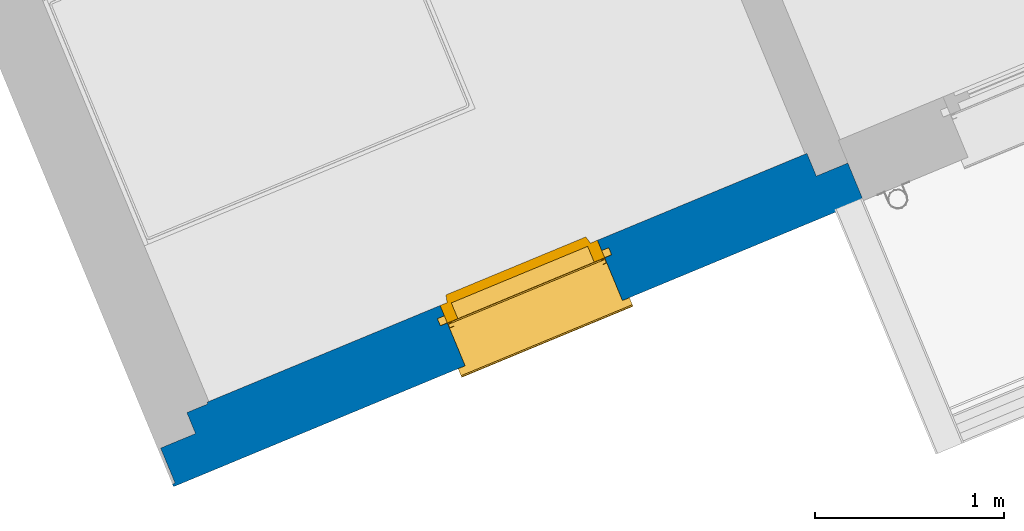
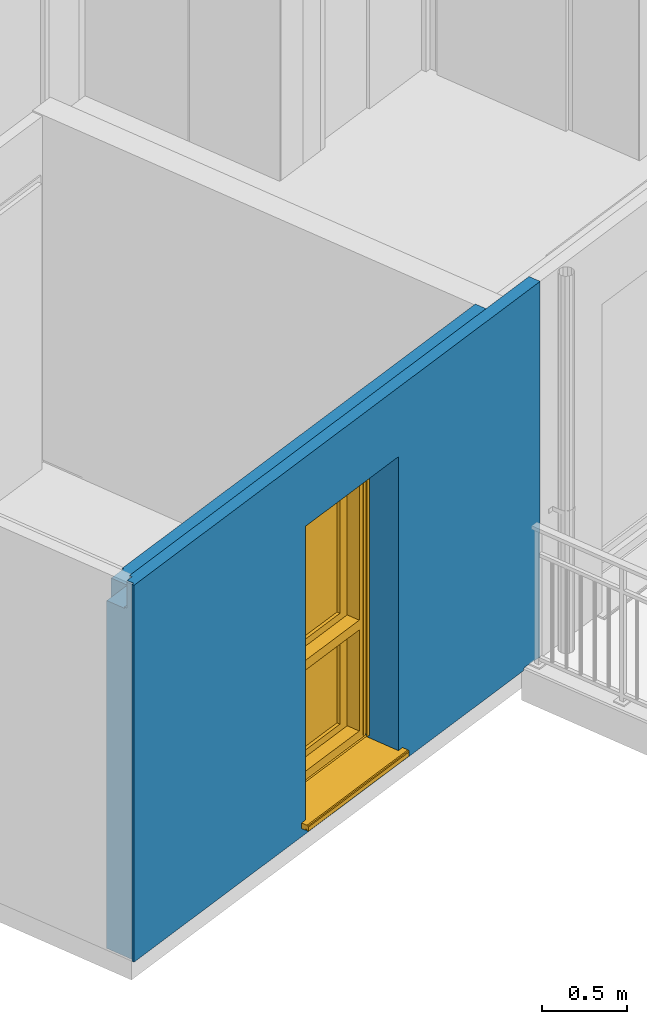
# One storey, part 5 of 90: 1 wall, 1 window, 1 opening.
"""IFC2X3 building model written with IfcOpenShell, lengths in metres."""

from ifc_helpers import new_model, entity, si_unit, converted_unit, derived_unit, money_unit, direction, frame, origin_with_axes, place, context, subcontext, project, spatial, open_shell, faceted_brep, surface_model, source, transform, mapped, material, material_list, type_object, element, fill, save


model = new_model("IFC2X3")

# Units and contexts
model_context = context("Model", 3, precision=1e-05, world=origin_with_axes(), true_north=direction((0.0, 1.0)))
body_context = subcontext(model_context, "Body", "Model", "MODEL_VIEW")
ifc_project = project(units=[si_unit("LENGTHUNIT", "METRE"), si_unit("AREAUNIT", "SQUARE_METRE"), si_unit("VOLUMEUNIT", "CUBIC_METRE"), converted_unit("PLANEANGLEUNIT", "DEGREE", entity("IfcPlaneAngleMeasure", 0.0174532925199), si_unit("PLANEANGLEUNIT", "RADIAN"), dimensions=[0, 0, 0, 0, 0, 0, 0]), si_unit("SOLIDANGLEUNIT", "STERADIAN"), money_unit("EUR"), converted_unit("TIMEUNIT", "Year", entity("IfcTimeMeasure", 31556926.0), si_unit("TIMEUNIT", "SECOND"), dimensions=[0, 0, 1, 0, 0, 0, 0]), si_unit("MASSUNIT", "GRAM", prefix="KILO"), si_unit("THERMODYNAMICTEMPERATUREUNIT", "DEGREE_CELSIUS"), si_unit("LUMINOUSINTENSITYUNIT", "LUMEN"), si_unit("ENERGYUNIT", "JOULE", prefix="MEGA"), derived_unit("THERMALCONDUCTANCEUNIT", [(si_unit("POWERUNIT", "WATT"), 1), (si_unit("LENGTHUNIT", "METRE"), -1), (si_unit("THERMODYNAMICTEMPERATUREUNIT", "KELVIN"), -1)]), derived_unit("SPECIFICHEATCAPACITYUNIT", [(si_unit("ENERGYUNIT", "JOULE"), 1), (si_unit("MASSUNIT", "GRAM", prefix="KILO"), -1), (si_unit("THERMODYNAMICTEMPERATUREUNIT", "KELVIN"), -1)]), derived_unit("MASSDENSITYUNIT", [(si_unit("MASSUNIT", "GRAM", prefix="KILO"), 1), (si_unit("VOLUMEUNIT", "CUBIC_METRE"), -1)])], contexts=[model_context])

# Site, building, storey
site_placement = place(None, origin_with_axes())
site = spatial("IfcSite", under=ifc_project, at=site_placement, Name="Site", CompositionType="ELEMENT")
building_placement = place(site_placement, origin_with_axes())
building = spatial("IfcBuilding", under=site, at=building_placement, Name="Bâtiment", CompositionType="ELEMENT")
storey_placement = place(building_placement, frame((0.0, 0.0, 2.72), z_axis=(0.0, 0.0, 1.0), x_axis=(1.0, 0.0, 0.0)))
storey = spatial("IfcBuildingStorey", under=building, at=storey_placement, Name="R+1", CompositionType="ELEMENT", Elevation=2.72)

# Wall, opening, window
ifc_material_1 = material(Name="Finition int - Plaque de plâtre")
ifc_material_2 = material(Name="Isolation - Polystyrène extrudé")
ifc_material_3 = material(Name="Bloc ELITHERM")
ifc_material_4 = material(Name="Isolation - Polystyrène expansé")
ifc_material_5 = material(Name="Mortier")
ifc_material_6 = material(Name="Béton cellulaire")
ifc_material_7 = material(Name="Finition ext - Crépis")
ifc_material_list = material_list([ifc_material_1, ifc_material_2, ifc_material_3, ifc_material_4, ifc_material_5, ifc_material_6, ifc_material_7])
wall_type = type_object("IfcWallType", Name="Mur ALKERN + planelle 21 345 x 2720", PredefinedType="USERDEFINED")
wall_placement = place(storey_placement, frame((-30.9825111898, -28.5909034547, 0.0), z_axis=(0.0, 0.0, 1.0), x_axis=(0.923701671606, 0.383112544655, 0.0)))
wall = element("IfcWall", 1, at=wall_placement, inside=storey, type_object=wall_type, material=ifc_material_list, Name="Mue bloc ALKERN isolé", ObjectType="SOLIDWALL", context=body_context, shape_type="Brep", body=[
    faceted_brep([(0.335000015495, 0.335000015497, 0.0), (3.7669281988, 0.335000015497, 0.0), (3.7669281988, 0.335000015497, 2.50999999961), (0.335000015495, 0.335000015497, 2.51), (1.66817600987, 0.335000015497, 2.22), (1.66817600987, 0.335000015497, 2.4), (2.56817600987, 0.335000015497, 2.4), (2.56817600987, 0.335000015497, 2.22), (2.56817600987, 0.335000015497, 0.12), (1.66817600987, 0.335000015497, 0.12), (0.335000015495, 0.34499998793, 0.0), (3.76692819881, 0.34499998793, 0.0), (3.76692819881, 0.34499998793, 2.50999999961), (0.335000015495, 0.34499998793, 2.51), (1.66817600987, 0.34499998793, 2.22), (1.66817600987, 0.34499998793, 2.4), (1.66817600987, 0.34499998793, 0.12), (2.56817600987, 0.34499998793, 2.4), (2.56817600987, 0.34499998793, 2.22), (2.56817600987, 0.34499998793, 0.12)], [[[0, 1, 2, 3], [4, 5, 6, 7, 8, 9]], [[10, 11, 1, 0]], [[2, 1, 11, 12]], [[3, 2, 12, 13]], [[3, 13, 10, 0]], [[14, 15, 5, 4, 9, 16]], [[6, 5, 15, 17]], [[7, 6, 17, 18, 19, 8]], [[8, 19, 16, 9]], [[13, 12, 11, 10], [15, 14, 16, 19, 18, 17]]]),
    faceted_brep([(2.56817600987, 0.286, 0.12), (2.56817600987, 0.286, 0.06), (2.56817600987, 0.215000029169, 0.06), (2.56817600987, 0.215000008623, 0.12), (2.56817600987, 0.215, 2.22), (2.56817600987, 0.215, 2.4), (2.56817600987, 0.335000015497, 2.4), (2.56817600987, 0.335000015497, 2.22), (2.56817600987, 0.335000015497, 0.12), (1.66817600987, 0.286, 0.12), (1.66817600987, 0.286, 0.06), (1.66817600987, 0.215000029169, 0.06), (3.76692819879, 0.214999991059, 2.50999999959), (0.214999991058, 0.215000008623, 2.50999999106), (0.214999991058, 0.215000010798, 0.0), (3.76692819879, 0.215000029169, 0.0), (1.66817600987, 0.215000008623, 0.12), (1.66817600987, 0.215, 2.22), (1.66817600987, 0.215, 2.4), (1.66817600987, 0.335000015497, 2.4), (3.7669281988, 0.335000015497, 0.0), (0.214999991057, 0.335000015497, 0.0), (0.214999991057, 0.335000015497, 2.50999999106), (3.7669281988, 0.335000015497, 2.50999999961), (1.66817600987, 0.335000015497, 2.22), (1.66817600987, 0.335000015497, 0.12)], [[[0, 1, 2, 3, 4, 5, 6, 7, 8]], [[0, 9, 10, 1]], [[11, 2, 1, 10]], [[12, 13, 14, 15], [11, 16, 17, 18, 5, 4, 3, 2]], [[18, 19, 6, 5]], [[20, 21, 22, 23], [8, 7, 6, 19, 24, 25]], [[9, 0, 8, 25]], [[16, 11, 10, 9, 25, 24, 19, 18, 17]], [[23, 22, 13, 12]], [[21, 14, 13, 22]], [[15, 14, 21, 20]], [[20, 23, 12, 15]]]),
    faceted_brep([(2.56817600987, 0.214999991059, 0.12), (2.56817600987, 0.214999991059, 0.06), (2.56817600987, 0.015, 0.06), (2.56817600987, 0.015, 0.12), (2.56817600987, 0.015, 2.22), (2.56817600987, 0.214999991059, 2.22), (3.94692819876, 0.214999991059, 2.50999999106), (3.94692819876, 0.214999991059, 0.0), (0.0149999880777, 0.214999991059, 0.0), (0.0149999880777, 0.214999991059, 2.50999999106), (1.66817600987, 0.214999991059, 2.22), (1.66817600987, 0.214999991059, 0.12), (1.66817600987, 0.214999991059, 0.06), (1.66817600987, 0.015, 0.06), (3.94692819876, 0.015, 0.0), (3.94692819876, 0.015, 2.50999999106), (0.014999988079, 0.015, 2.50999999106), (0.014999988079, 0.015, 0.0), (1.66817600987, 0.015, 0.12), (1.66817600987, 0.015, 2.22), (3.94692819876, 0.0829999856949, 2.50999999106), (0.0149999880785, 0.0829999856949, 2.50999999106)], [[[0, 1, 2, 3, 4, 5]], [[6, 7, 8, 9], [1, 0, 5, 10, 11, 12]], [[13, 2, 1, 12]], [[14, 15, 16, 17], [13, 18, 19, 4, 3, 2]], [[19, 10, 5, 4]], [[7, 6, 20, 15, 14]], [[7, 14, 17, 8]], [[8, 17, 16, 21, 9]], [[20, 6, 9, 21]], [[18, 13, 12, 11, 10, 19]], [[15, 20, 21, 16]]]),
    faceted_brep([(3.94692819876, 0.083000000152, 2.72), (0.0629999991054, 0.083000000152, 2.72), (0.0629999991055, 0.0630000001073, 2.72), (3.94692819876, 0.0630000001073, 2.72), (3.94692819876, 0.083000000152, 2.51999999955), (0.0629999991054, 0.083000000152, 2.51999999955), (0.0629999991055, 0.0630000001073, 2.51999999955), (3.94692819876, 0.0630000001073, 2.51999999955)], [[[0, 1, 2, 3]], [[4, 5, 1, 0]], [[5, 6, 2, 1]], [[3, 2, 6, 7]], [[7, 4, 0, 3]], [[7, 6, 5, 4]]]),
    faceted_brep([(0.0149999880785, 0.083, 2.51999999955), (0.014999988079, 0.015, 2.51999999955), (3.94692819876, 0.015, 2.52), (3.94692819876, 0.083, 2.52), (0.014999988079, 0.015, 2.50999999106), (0.0149999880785, 0.083, 2.50999999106), (3.94692819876, 0.015, 2.51), (3.94692819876, 0.083, 2.51)], [[[0, 1, 2, 3]], [[4, 1, 0, 5]], [[1, 4, 6, 2]], [[6, 7, 3, 2]], [[5, 0, 3, 7]], [[4, 5, 7, 6]]]),
    faceted_brep([(0.0149999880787, 0.0629999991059, 2.72), (0.014999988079, 0.015, 2.72), (3.94692819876, 0.015, 2.72), (3.94692819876, 0.0629999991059, 2.72), (0.014999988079, 0.015, 2.51999999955), (0.0149999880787, 0.0629999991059, 2.51999999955), (3.94692819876, 0.015, 2.51999999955), (3.94692819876, 0.0629999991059, 2.51999999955)], [[[0, 1, 2, 3]], [[4, 1, 0, 5]], [[1, 4, 6, 2]], [[2, 6, 7, 3]], [[5, 0, 3, 7]], [[4, 5, 7, 6]]]),
    faceted_brep([(2.56817600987, 0.015000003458, 0.12), (2.56817600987, 0.0, 0.12), (2.56817600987, 0.0, 2.22), (2.56817600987, 0.015000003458, 2.22), (2.56817600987, 0.0, 0.06), (2.56817600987, 0.0149999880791, 0.06), (3.93694767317, 0.0, 0.0106237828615), (3.94692819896, 0.0, 0.0), (3.94692819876, 0.0, 2.72), (1.19209389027e-08, 0.0, 2.72), (1.19209389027e-08, 0.0, 0.0), (3.78692819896, 0.0, 0.0), (3.78692819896, 0.0, 0.01), (3.79690872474, 0.0, 0.0193762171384), (1.66817600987, 0.0, 0.06), (1.66817600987, 0.0, 0.12), (1.66817600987, 0.0, 2.22), (1.66817600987, 0.015000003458, 2.22), (3.78692819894, 0.0150000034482, 0.0), (1.19208465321e-08, 0.0149999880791, 0.0), (1.19208465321e-08, 0.0149999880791, 2.72), (3.94692819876, 0.0149999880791, 2.72), (3.94692819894, 0.0150000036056, 0.0), (3.93694767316, 0.0150000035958, 0.0106237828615), (3.79690872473, 0.015000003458, 0.0193762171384), (3.78692819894, 0.0150000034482, 0.01), (1.66817600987, 0.015000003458, 0.12), (1.66817600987, 0.0149999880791, 0.06)], [[[0, 1, 2, 3]], [[4, 1, 0, 5]], [[6, 7, 8, 9, 10, 11, 12, 13], [14, 15, 16, 2, 1, 4]], [[16, 17, 3, 2]], [[18, 19, 20, 21, 22, 23, 24, 25], [5, 0, 3, 17, 26, 27]], [[14, 4, 5, 27]], [[7, 6, 23, 22]], [[22, 21, 8, 7]], [[20, 9, 8, 21]], [[10, 9, 20, 19]], [[11, 10, 19, 18]], [[11, 18, 25, 12]], [[12, 25, 24, 13]], [[13, 24, 23, 6]], [[26, 15, 14, 27]], [[15, 26, 17, 16]]]),
])
opening_placement = place(wall_placement, frame((2.11817600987, 0.0, 0.12), z_axis=(0.0, 0.0, 1.0), x_axis=(1.0, 0.0, 0.0)))
opening = element("IfcOpeningElement", 2, at=opening_placement, cuts=wall, Name="MEN 54", context=body_context, shape_type="Brep", body=[
    faceted_brep([(-0.45, 0.83499998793, 0.0), (0.45, 0.83499998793, 0.0), (0.45, 0.245, 0.0), (-0.45, 0.245, 0.0), (-0.45, 0.83499998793, 2.1), (0.45, 0.83499998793, 2.1), (0.45, 0.245, 2.1), (-0.45, 0.245, 2.1)], [[[0, 1, 2, 3]], [[0, 4, 5, 1]], [[1, 5, 6, 2]], [[3, 2, 6, 7]], [[4, 0, 3, 7]], [[5, 4, 7, 6]]]),
    faceted_brep([(-0.45, -0.34499998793, 0.0), (-0.45, -0.34499998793, 2.1), (-0.45, 0.245, 2.1), (-0.45, 0.245, 0.0), (0.45, -0.34499998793, 0.0), (0.45, -0.34499998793, 2.1), (0.45, 0.245, 2.1), (0.45, 0.245, 0.0)], [[[0, 1, 2, 3]], [[0, 4, 5, 1]], [[1, 5, 6, 2]], [[3, 2, 6, 7]], [[4, 0, 3, 7]], [[5, 4, 7, 6]]]),
    faceted_brep([(-0.45, -0.34499998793, 0.0), (-0.45, -0.34499998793, 2.1), (-0.45, 0.245, 2.1), (-0.45, 0.245, 0.0), (0.45, -0.34499998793, 0.0), (0.45, -0.34499998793, 2.1), (0.45, 0.245, 2.1), (0.45, 0.245, 0.0)], [[[0, 1, 2, 3]], [[0, 4, 5, 1]], [[1, 5, 6, 2]], [[3, 2, 6, 7]], [[4, 0, 3, 7]], [[5, 4, 7, 6]]]),
    faceted_brep([(-0.45, 0.80499998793, 2.1), (0.45, 0.80499998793, 2.1), (0.45, 0.215, 2.1), (-0.45, 0.215, 2.1), (-0.45, 0.80499998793, 2.28), (0.45, 0.80499998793, 2.28), (0.45, 0.215, 2.28), (-0.45, 0.215, 2.28)], [[[0, 1, 2, 3]], [[0, 4, 5, 1]], [[1, 5, 6, 2]], [[3, 2, 6, 7]], [[4, 0, 3, 7]], [[5, 4, 7, 6]]]),
    faceted_brep([(-0.45, -0.30399998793, 0.0), (0.45, -0.30399998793, 0.0), (0.45, 0.286, 0.0), (-0.45, 0.286, 0.0), (-0.45, -0.30399998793, -0.06), (0.45, -0.30399998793, -0.06), (0.45, 0.286, -0.06), (-0.45, 0.286, -0.06)], [[[0, 1, 2, 3]], [[0, 4, 5, 1]], [[1, 5, 6, 2]], [[3, 2, 6, 7]], [[4, 0, 3, 7]], [[5, 4, 7, 6]]]),
])
window_style = type_object("IfcWindowStyle", Name="Baie générique 2017 v2", ConstructionType="NOTDEFINED", OperationType="NOTDEFINED", ParameterTakesPrecedence=False, Sizeable=False)
shared_shape = source(origin_with_axes(), body_context, "Body", "SurfaceModel", [
    faceted_brep([(-0.45, 0.0, 2.1), (-0.45, 0.0, 0.0), (0.45, 0.0, 0.0), (0.45, 0.0, 2.1), (0.39, 0.0, 0.85), (-0.39, 0.0, 0.85), (-0.39, 0.0, 2.05), (0.39, 0.0, 2.05), (0.39, 0.0, 0.78), (0.39, 0.0, 0.05), (-0.39, 0.0, 0.05), (-0.39, 0.0, 0.78), (-0.45, 0.1, 2.1), (-0.45, 0.1, 0.0), (0.45, 0.1, 0.0), (0.45, 0.1, 2.1), (0.39, 0.1, 0.85), (-0.39, 0.1, 0.85), (-0.39, 0.1, 2.05), (0.39, 0.1, 2.05), (0.39, 0.1, 0.78), (0.39, 0.1, 0.05), (-0.39, 0.1, 0.05), (-0.39, 0.1, 0.78)], [[[0, 1, 2, 3], [4, 5, 6, 7], [8, 9, 10, 11]], [[0, 12, 13, 1]], [[1, 13, 14, 2]], [[2, 14, 15, 3]], [[3, 15, 12, 0]], [[4, 16, 17, 5]], [[5, 17, 18, 6]], [[6, 18, 19, 7]], [[16, 4, 7, 19]], [[8, 20, 21, 9]], [[9, 21, 22, 10]], [[23, 11, 10, 22]], [[20, 8, 11, 23]], [[14, 13, 12, 15], [16, 19, 18, 17], [20, 23, 22, 21]]]),
    faceted_brep([(0.32, 0.09, 1.98), (0.32, 0.14, 1.98), (0.32, 0.14, 0.9), (0.32, 0.09, 0.9), (-0.32, 0.09, 1.98), (-0.32, 0.14, 1.98), (0.400012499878, 0.140000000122, 0.839987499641), (-0.400012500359, 0.140000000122, 0.839987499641), (-0.400012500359, 0.140000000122, 2.0600124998), (0.400012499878, 0.140000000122, 2.0600124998), (-0.32, 0.14, 0.9), (-0.32, 0.09, 0.9), (0.39, 0.09, 2.05), (-0.39, 0.09, 2.05), (-0.39, 0.09, 0.85), (0.39, 0.09, 0.85), (0.41, 0.10005, 0.83), (-0.41, 0.10005, 0.83), (-0.41, 0.10005, 2.07), (0.41, 0.10005, 2.07), (0.39, 0.10005, 2.05), (-0.39, 0.10005, 2.05), (-0.39, 0.10005, 0.85), (0.39, 0.10005, 0.85)], [[[0, 1, 2, 3]], [[4, 5, 1, 0]], [[6, 7, 8, 9], [2, 1, 5, 10]], [[11, 3, 2, 10]], [[12, 13, 14, 15], [0, 3, 11, 4]], [[4, 11, 10, 5]], [[6, 16, 17, 7]], [[7, 17, 18, 8]], [[8, 18, 19, 9]], [[9, 19, 16, 6]], [[20, 21, 13, 12]], [[21, 22, 14, 13]], [[22, 23, 15, 14]], [[23, 20, 12, 15]], [[19, 18, 17, 16], [21, 20, 23, 22]]]),
    surface_model("IfcShellBasedSurfaceModel", [(-0.39, 0.14, 0.85), (-0.39, 0.115, 0.85), (-0.39, 0.115, 2.05), (-0.39, 0.14, 2.05)], [open_shell([[[0, 1, 2, 3]]])]),
    surface_model("IfcShellBasedSurfaceModel", [(0.39, 0.14, 0.85), (0.39, 0.115, 0.85), (0.39, 0.115, 2.05), (0.39, 0.14, 2.05)], [open_shell([[[0, 1, 2, 3]]])]),
    surface_model("IfcShellBasedSurfaceModel", [(-0.39, 0.14, 0.85), (-0.39, 0.115, 0.85), (0.39, 0.115, 0.85), (0.39, 0.14, 0.85)], [open_shell([[[0, 1, 2, 3]]])]),
    surface_model("IfcShellBasedSurfaceModel", [(-0.39, 0.14, 2.05), (-0.39, 0.115, 2.05), (0.39, 0.115, 2.05), (0.39, 0.14, 2.05)], [open_shell([[[0, 1, 2, 3]]])]),
    surface_model("IfcShellBasedSurfaceModel", [(-0.39, 0.115, 0.85), (-0.39, 0.09, 0.85), (-0.39, 0.09, 2.05), (-0.39, 0.115, 2.05)], [open_shell([[[0, 1, 2, 3]]])]),
    surface_model("IfcShellBasedSurfaceModel", [(0.39, 0.115, 0.85), (0.39, 0.09, 0.85), (0.39, 0.09, 2.05), (0.39, 0.115, 2.05)], [open_shell([[[0, 1, 2, 3]]])]),
    surface_model("IfcShellBasedSurfaceModel", [(-0.39, 0.115, 0.85), (-0.39, 0.09, 0.85), (0.39, 0.09, 0.85), (0.39, 0.115, 0.85)], [open_shell([[[0, 1, 2, 3]]])]),
    surface_model("IfcShellBasedSurfaceModel", [(-0.39, 0.115, 2.05), (-0.39, 0.09, 2.05), (0.39, 0.09, 2.05), (0.39, 0.115, 2.05)], [open_shell([[[0, 1, 2, 3]]])]),
    faceted_brep([(-0.32, 0.1175, 0.9), (0.32, 0.1175, 0.9), (0.32, 0.1125, 0.9), (-0.32, 0.1125, 0.9), (-0.32, 0.1175, 1.98), (0.32, 0.1175, 1.98), (0.32, 0.1125, 1.98), (-0.32, 0.1125, 1.98)], [[[0, 1, 2, 3]], [[0, 4, 5, 1]], [[1, 5, 6, 2]], [[3, 2, 6, 7]], [[4, 0, 3, 7]], [[5, 4, 7, 6]]]),
    faceted_brep([(0.32, 0.09, 0.71), (0.32, 0.14, 0.71), (0.32, 0.14, 0.1), (0.32, 0.09, 0.1), (-0.32, 0.09, 0.71), (-0.32, 0.14, 0.71), (0.400012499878, 0.140000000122, 0.039987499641), (-0.400012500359, 0.140000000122, 0.039987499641), (-0.400012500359, 0.140000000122, 0.790012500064), (0.400012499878, 0.140000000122, 0.790012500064), (-0.32, 0.14, 0.1), (-0.32, 0.09, 0.1), (0.39, 0.09, 0.78), (-0.39, 0.09, 0.78), (-0.39, 0.09, 0.05), (0.39, 0.09, 0.05), (0.41, 0.10005, 0.03), (-0.41, 0.10005, 0.03), (-0.41, 0.10005, 0.8), (0.41, 0.10005, 0.8), (0.39, 0.10005, 0.78), (-0.39, 0.10005, 0.78), (-0.39, 0.10005, 0.05), (0.39, 0.10005, 0.05)], [[[0, 1, 2, 3]], [[4, 5, 1, 0]], [[6, 7, 8, 9], [2, 1, 5, 10]], [[11, 3, 2, 10]], [[12, 13, 14, 15], [0, 3, 11, 4]], [[4, 11, 10, 5]], [[6, 16, 17, 7]], [[7, 17, 18, 8]], [[8, 18, 19, 9]], [[9, 19, 16, 6]], [[20, 21, 13, 12]], [[21, 22, 14, 13]], [[22, 23, 15, 14]], [[23, 20, 12, 15]], [[19, 18, 17, 16], [21, 20, 23, 22]]]),
    surface_model("IfcShellBasedSurfaceModel", [(-0.39, 0.14, 0.05), (-0.39, 0.115, 0.05), (-0.39, 0.115, 0.78), (-0.39, 0.14, 0.78)], [open_shell([[[0, 1, 2, 3]]])]),
    surface_model("IfcShellBasedSurfaceModel", [(0.39, 0.14, 0.05), (0.39, 0.115, 0.05), (0.39, 0.115, 0.78), (0.39, 0.14, 0.78)], [open_shell([[[0, 1, 2, 3]]])]),
    surface_model("IfcShellBasedSurfaceModel", [(-0.39, 0.14, 0.05), (-0.39, 0.115, 0.05), (0.39, 0.115, 0.05), (0.39, 0.14, 0.05)], [open_shell([[[0, 1, 2, 3]]])]),
    surface_model("IfcShellBasedSurfaceModel", [(-0.39, 0.14, 0.78), (-0.39, 0.115, 0.78), (0.39, 0.115, 0.78), (0.39, 0.14, 0.78)], [open_shell([[[0, 1, 2, 3]]])]),
    surface_model("IfcShellBasedSurfaceModel", [(-0.39, 0.115, 0.05), (-0.39, 0.09, 0.05), (-0.39, 0.09, 0.78), (-0.39, 0.115, 0.78)], [open_shell([[[0, 1, 2, 3]]])]),
    surface_model("IfcShellBasedSurfaceModel", [(0.39, 0.115, 0.05), (0.39, 0.09, 0.05), (0.39, 0.09, 0.78), (0.39, 0.115, 0.78)], [open_shell([[[0, 1, 2, 3]]])]),
    surface_model("IfcShellBasedSurfaceModel", [(-0.39, 0.115, 0.05), (-0.39, 0.09, 0.05), (0.39, 0.09, 0.05), (0.39, 0.115, 0.05)], [open_shell([[[0, 1, 2, 3]]])]),
    surface_model("IfcShellBasedSurfaceModel", [(-0.39, 0.115, 0.78), (-0.39, 0.09, 0.78), (0.39, 0.09, 0.78), (0.39, 0.115, 0.78)], [open_shell([[[0, 1, 2, 3]]])]),
    faceted_brep([(-0.32, 0.1175, 0.1), (0.32, 0.1175, 0.1), (0.32, 0.1125, 0.1), (-0.32, 0.1125, 0.1), (-0.32, 0.1175, 0.71), (0.32, 0.1175, 0.71), (0.32, 0.1125, 0.71), (-0.32, 0.1125, 0.71)], [[[0, 1, 2, 3]], [[0, 4, 5, 1]], [[1, 5, 6, 2]], [[3, 2, 6, 7]], [[4, 0, 3, 7]], [[5, 4, 7, 6]]]),
    faceted_brep([(-0.45, -0.03, 0.0), (-0.425, -0.03, 0.0), (-0.425, -0.03, 2.1), (-0.45, -0.03, 2.1), (-0.45, -0.002, 0.0), (-0.425, -0.002, 0.0), (-0.425, -0.004, 0.0), (-0.448, -0.004, 0.0), (-0.448, -0.028, 0.0), (-0.425, -0.028, 0.0), (-0.425, -0.028, 2.1), (-0.448, -0.028, 2.1), (-0.448, -0.004, 2.1), (-0.425, -0.004, 2.1), (-0.425, -0.002, 2.1), (-0.45, -0.002, 2.1)], [[[0, 1, 2, 3]], [[0, 4, 5, 6, 7, 8, 9, 1]], [[1, 9, 10, 2]], [[3, 2, 10, 11, 12, 13, 14, 15]], [[4, 0, 3, 15]], [[5, 4, 15, 14]], [[6, 5, 14, 13]], [[7, 6, 13, 12]], [[8, 7, 12, 11]], [[9, 8, 11, 10]]]),
    faceted_brep([(0.45, -0.03, 0.0), (0.45, -0.03, 2.1), (0.425, -0.03, 2.1), (0.425, -0.03, 0.0), (0.45, -0.002, 0.0), (0.45, -0.002, 2.1), (0.425, -0.002, 2.1), (0.425, -0.004, 2.1), (0.448, -0.004, 2.1), (0.448, -0.028, 2.1), (0.425, -0.028, 2.1), (0.425, -0.028, 0.0), (0.448, -0.028, 0.0), (0.448, -0.004, 0.0), (0.425, -0.004, 0.0), (0.425, -0.002, 0.0)], [[[0, 1, 2, 3]], [[4, 5, 1, 0]], [[1, 5, 6, 7, 8, 9, 10, 2]], [[3, 2, 10, 11]], [[0, 3, 11, 12, 13, 14, 15, 4]], [[15, 6, 5, 4]], [[14, 7, 6, 15]], [[13, 8, 7, 14]], [[12, 9, 8, 13]], [[11, 10, 9, 12]]]),
    faceted_brep([(0.448, -0.028, 2.1), (-0.448, -0.028, 2.1), (-0.448, -0.028, 2.278), (0.448, -0.028, 2.278), (0.448, -0.03, 2.1), (-0.448, -0.03, 2.1), (-0.448, -0.03, 2.28), (-0.448, 0.17, 2.28), (-0.448, 0.17, 2.1), (-0.448, 0.168, 2.1), (-0.448, 0.168, 2.278), (0.448, 0.168, 2.278), (0.448, 0.168, 2.1), (0.448, 0.17, 2.1), (0.448, 0.17, 2.28), (0.448, -0.03, 2.28)], [[[0, 1, 2, 3]], [[4, 5, 1, 0]], [[1, 5, 6, 7, 8, 9, 10, 2]], [[3, 2, 10, 11]], [[0, 3, 11, 12, 13, 14, 15, 4]], [[15, 6, 5, 4]], [[14, 7, 6, 15]], [[13, 8, 7, 14]], [[12, 9, 8, 13]], [[11, 10, 9, 12]]]),
    faceted_brep([(0.448, 0.0724697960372, 2.17436337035), (0.448, 0.08, 2.19), (0.448, 0.0724697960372, 2.20563662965), (0.448, 0.0555495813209, 2.20949855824), (0.448, 0.041980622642, 2.19867767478), (0.448, 0.041980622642, 2.18132232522), (0.448, 0.0555495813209, 2.17050144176), (-0.448, 0.0724697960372, 2.17436337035), (-0.448, 0.08, 2.19), (-0.448, 0.0724697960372, 2.20563662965), (-0.448, 0.0555495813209, 2.20949855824), (-0.448, 0.041980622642, 2.19867767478), (-0.448, 0.041980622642, 2.18132232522), (-0.448, 0.0555495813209, 2.17050144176)], [[[0, 1, 2, 3, 4, 5, 6]], [[0, 7, 8, 1]], [[1, 8, 9, 2]], [[2, 9, 10, 3]], [[3, 10, 11, 4]], [[4, 11, 12, 5]], [[5, 12, 13, 6]], [[6, 13, 7, 0]], [[7, 13, 12, 11, 10, 9, 8]]]),
    faceted_brep([(0.438, 0.130275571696, 2.15615706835), (0.438, 0.138, 2.19), (0.438, 0.130275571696, 2.22384293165), (0.438, 0.108632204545, 2.25098285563), (0.438, 0.0773566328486, 2.26604437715), (0.438, 0.0426433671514, 2.26604437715), (0.438, 0.011367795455, 2.25098285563), (0.438, -0.0102755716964, 2.22384293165), (0.438, -0.018, 2.19), (0.438, -0.0102755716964, 2.15615706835), (0.438, 0.011367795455, 2.12901714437), (0.438, 0.0426433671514, 2.11395562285), (0.438, 0.0773566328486, 2.11395562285), (0.438, 0.108632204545, 2.12901714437), (-0.438, 0.130275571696, 2.15615706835), (-0.438, 0.138, 2.19), (-0.438, 0.130275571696, 2.22384293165), (-0.438, 0.108632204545, 2.25098285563), (-0.438, 0.0773566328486, 2.26604437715), (-0.438, 0.0426433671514, 2.26604437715), (-0.438, 0.011367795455, 2.25098285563), (-0.438, -0.0102755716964, 2.22384293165), (-0.438, -0.018, 2.19), (-0.438, -0.0102755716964, 2.15615706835), (-0.438, 0.011367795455, 2.12901714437), (-0.438, 0.0426433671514, 2.11395562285), (-0.438, 0.0773566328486, 2.11395562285), (-0.438, 0.108632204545, 2.12901714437)], [[[0, 1, 2, 3, 4, 5, 6, 7, 8, 9, 10, 11, 12, 13]], [[0, 14, 15, 1]], [[1, 15, 16, 2]], [[2, 16, 17, 3]], [[3, 17, 18, 4]], [[4, 18, 19, 5]], [[5, 19, 20, 6]], [[6, 20, 21, 7]], [[7, 21, 22, 8]], [[8, 22, 23, 9]], [[9, 23, 24, 10]], [[10, 24, 25, 11]], [[11, 25, 26, 12]], [[12, 26, 27, 13]], [[13, 27, 14, 0]], [[14, 27, 26, 25, 24, 23, 22, 21, 20, 19, 18, 17, 16, 15]]]),
    faceted_brep([(0.45, 0.17, 2.1), (0.448, 0.17, 2.1), (0.448, 0.17, 2.28), (0.45, 0.17, 2.28), (0.45, -0.03, 2.1), (0.448, -0.03, 2.1), (0.448, -0.03, 2.28), (0.45, -0.03, 2.28)], [[[0, 1, 2, 3]], [[4, 5, 1, 0]], [[1, 5, 6, 2]], [[3, 2, 6, 7]], [[0, 3, 7, 4]], [[7, 6, 5, 4]]]),
    faceted_brep([(-0.448, 0.17, 2.1), (-0.45, 0.17, 2.1), (-0.45, 0.17, 2.28), (-0.448, 0.17, 2.28), (-0.448, -0.03, 2.1), (-0.45, -0.03, 2.1), (-0.45, -0.03, 2.28), (-0.448, -0.03, 2.28)], [[[0, 1, 2, 3]], [[4, 5, 1, 0]], [[1, 5, 6, 2]], [[3, 2, 6, 7]], [[0, 3, 7, 4]], [[7, 6, 5, 4]]]),
    faceted_brep([(0.448, -0.004, 2.1), (-0.448, -0.004, 2.1), (-0.448, 0.168, 2.1), (0.448, 0.168, 2.1), (0.448, -0.004, 2.102), (-0.448, -0.004, 2.102), (-0.448, 0.168, 2.102), (0.448, 0.168, 2.102)], [[[0, 1, 2, 3]], [[4, 5, 1, 0]], [[1, 5, 6, 2]], [[3, 2, 6, 7]], [[0, 3, 7, 4]], [[7, 6, 5, 4]]]),
    faceted_brep([(-0.438, -0.006, 2.1), (-0.438, -0.006, 2.19), (0.438, -0.006, 2.19), (0.438, -0.006, 2.1), (-0.438, -0.026, 2.1), (-0.438, -0.026, 2.19), (0.438, -0.026, 2.19), (0.438, -0.026, 2.1)], [[[0, 1, 2, 3]], [[1, 0, 4, 5]], [[2, 1, 5, 6]], [[3, 2, 6, 7]], [[4, 0, 3, 7]], [[5, 4, 7, 6]]]),
    faceted_brep([(0.45, -0.00167949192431, -0.01), (0.45, 0.0, -0.00373205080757), (0.49, 0.0, -0.00373205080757), (0.49, 0.001, 0.0), (-0.49, 0.001, 0.0), (-0.49, 0.0, -0.00373205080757), (-0.45, 0.0, -0.00373205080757), (-0.45, -0.00167949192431, -0.01), (0.45, -0.009, -0.0173205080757), (0.45, -0.019, -0.02), (0.45, -0.245, -0.02), (0.45, -0.245, -0.06), (0.45, 0.0, -0.06), (0.49, 0.0, -0.06), (0.49, 0.041, -0.06), (0.49, 0.041, 0.0), (-0.49, 0.041, 0.0), (-0.49, 0.041, -0.06), (-0.49, 0.0, -0.06), (-0.45, 0.0, -0.06), (-0.45, -0.245, -0.02), (-0.45, -0.019, -0.02), (-0.45, -0.009, -0.0173205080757), (-0.45, -0.245, -0.06), (-0.49, -0.245, -0.02), (-0.49, -0.285, -0.02), (0.49, -0.285, -0.02), (0.49, -0.245, -0.02), (0.49, -0.245, -0.06), (0.49, -0.275, -0.06), (-0.49, -0.275, -0.06), (-0.49, -0.245, -0.06), (-0.49, -0.295, -0.03), (-0.49, -0.292071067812, -0.0229289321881), (-0.49, -0.275, -0.05), (-0.49, -0.285, -0.05), (-0.49, -0.285, -0.06), (-0.49, -0.295, -0.06), (0.49, -0.292071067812, -0.0229289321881), (0.49, -0.295, -0.03), (0.49, -0.295, -0.06), (0.49, -0.285, -0.06), (0.49, -0.285, -0.05), (0.49, -0.275, -0.05)], [[[0, 1, 2, 3, 4, 5, 6, 7]], [[1, 0, 8, 9, 10, 11, 12]], [[13, 2, 1, 12]], [[2, 13, 14, 15, 3]], [[16, 4, 3, 15]], [[4, 16, 17, 18, 5]], [[5, 18, 19, 6]], [[20, 21, 22, 7, 6, 19, 23]], [[8, 0, 7, 22]], [[9, 8, 22, 21]], [[10, 9, 21, 20, 24, 25, 26, 27]], [[10, 27, 28, 11]], [[11, 28, 29, 30, 31, 23, 19, 18, 17, 14, 13, 12]], [[17, 16, 15, 14]], [[20, 23, 31, 24]], [[32, 33, 25, 24, 31, 30, 34, 35, 36, 37]], [[25, 33, 38, 26]], [[28, 27, 26, 38, 39, 40, 41, 42, 43, 29]], [[34, 30, 29, 43]], [[33, 32, 39, 38]], [[35, 34, 43, 42]], [[36, 35, 42, 41]], [[37, 36, 41, 40]], [[32, 37, 40, 39]]]),
])
window_placement = place(opening_placement, frame((-0.45, 0.0, 0.0), z_axis=(0.0, 0.0, 1.0), x_axis=(1.0, 0.0, 0.0)))
window = element("IfcWindow", 3, at=window_placement, inside=storey, type_object=window_style, Name="MEN 54", ObjectType="WINDOW", OverallHeight=2.1, OverallWidth=0.9, context=body_context, shape_type="MappedRepresentation", body=[
    mapped(shared_shape, transform((0.45, 0.245, 0.0))),
])
fill(opening, window)

save(model, "model.ifc")
